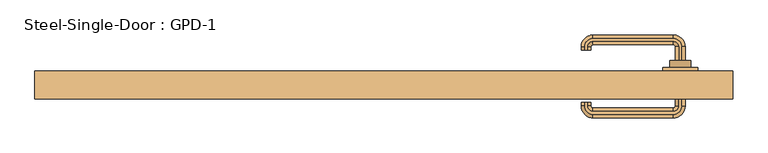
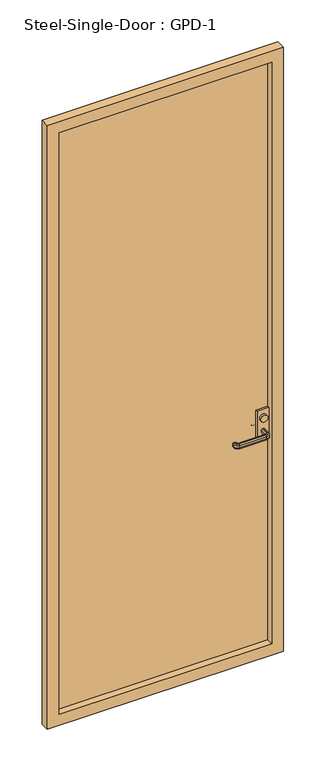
"""IFC4 building model written with IfcOpenShell, lengths in millimetres: door geometry, Steel-Single-Door : GPD-1."""

from ifc_helpers import new_model, si_unit, point, frame, frame_2d, origin, place, context, project, spatial, polyline, circle_curve, ellipse_curve, trimmed, segment, composite_curve, outline, extrude, source, transform, mapped, element, save
from ifc_brep_helpers import plane_surface, cylinder_surface, revolved_surface, advanced_brep


def steel_single_door_gpd_1_0d1a616a(model_context):
    return source(origin(), model_context, "Body", "SolidModel", [
        extrude(outline(composite_curve([segment(trimmed(circle_curve(frame_2d((1060.1793562, 425.0)), 15.0), [point((1060.1793562, 410.0))], [point((1060.1793562, 440.0))], False, "CARTESIAN"), True, "CONTINUOUS"), segment(trimmed(circle_curve(frame_2d((1060.1793562, 425.0)), 15.0), [point((1060.1793562, 440.0))], [point((1060.1793562, 410.0))], False, "CARTESIAN"), True, "CONTINUOUS")], self_intersect=False)), frame((0.0, 55.0, 0.0), z_axis=(0.0, 1.0, 0.0), x_axis=(0.0, 0.0, 1.0)), (0.0, 0.0, 1.0), 10.0),
        extrude(outline(composite_curve([segment(trimmed(circle_curve(frame_2d((1060.1793562, 425.0)), 15.0), [point((1060.1793562, 440.0))], [point((1060.1793562, 410.0))], False, "CARTESIAN"), True, "CONTINUOUS"), segment(trimmed(circle_curve(frame_2d((1060.1793562, 425.0)), 15.0), [point((1060.1793562, 410.0))], [point((1060.1793562, 440.0))], False, "CARTESIAN"), True, "CONTINUOUS")], self_intersect=False)), frame((0.0, 20.0, 0.0), z_axis=(0.0, 1.0, 0.0), x_axis=(0.0, 0.0, 1.0)), (0.0, 0.0, 1.0), 10.0),
        advanced_brep(
        [(427.0, 55.0, 1010.0), (423.0, 55.0, 1010.0), (418.0, 55.0, 1005.0), (418.0, 55.0, 995.0477623), (423.0, 55.0, 990.0477623), (427.0, 55.0, 990.0477623), (432.0, 55.0, 995.0477623), (432.0, 55.0, 1005.0), (432.0, 85.0, 1005.0), (427.0, 85.0, 1010.0), (432.0, 85.0, 995.0477623), (427.0, 85.0, 990.0477623), (423.0, 85.0, 990.0477623), (415.0, 93.0, 990.0477623), (300.0, 93.0, 990.0477623), (292.0, 85.0, 990.0477623), (292.0, 80.0, 990.0477623), (288.0, 80.0, 990.0477623), (288.0, 85.0, 990.0477623), (300.0, 97.0, 990.0477623), (415.0, 97.0, 990.0477623), (418.0, 85.0, 995.0477623), (418.0, 85.0, 1005.0), (423.0, 85.0, 1010.0), (415.0, 97.0, 1010.0), (300.0, 97.0, 1010.0), (288.0, 85.0, 1010.0), (288.0, 80.0, 1010.0), (292.0, 80.0, 1010.0), (292.0, 85.0, 1010.0), (300.0, 93.0, 1010.0), (415.0, 93.0, 1010.0), (415.0, 102.0, 1005.0), (415.0, 102.0, 995.0477623), (415.0, 88.0, 995.0477623), (415.0, 88.0, 1005.0), (300.0, 102.0, 1005.0), (300.0, 102.0, 995.0477623), (300.0, 88.0, 995.0477623), (300.0, 88.0, 1005.0), (283.0, 85.0, 1005.0), (283.0, 85.0, 995.0477623), (297.0, 85.0, 995.0477623), (297.0, 85.0, 1005.0), (283.0, 80.0, 1005.0), (283.0, 80.0, 995.0477623), (297.0, 80.0, 995.0477623), (297.0, 80.0, 1005.0)],
        [
            (0, 1),
            (1, 2, circle_curve(frame((423.0, 55.0, 1005.0), z_axis=(0.0, -1.0, 0.0), x_axis=(1.0, 0.0, 0.0)), 5.0)),
            (2, 3),
            (3, 4, circle_curve(frame((423.0, 55.0, 995.0477623), z_axis=(0.0, -1.0, 0.0), x_axis=(1.0, 0.0, 0.0)), 5.0)),
            (4, 5),
            (5, 6, circle_curve(frame((427.0, 55.0, 995.0477623), z_axis=(0.0, -1.0, 0.0), x_axis=(1.0, 0.0, 0.0)), 5.0)),
            (6, 7),
            (7, 0, circle_curve(frame((427.0, 55.0, 1005.0), z_axis=(0.0, -1.0, 0.0), x_axis=(1.0, 0.0, 0.0)), 5.0)),
            (7, 8),
            (8, 9, circle_curve(frame((427.0, 85.0, 1005.0), z_axis=(0.0, -1.0, 0.0), x_axis=(1.0, 0.0, 0.0)), 5.0)),
            (9, 0),
            (6, 10),
            (10, 8),
            (5, 11),
            (11, 10, circle_curve(frame((427.0, 85.0, 995.0477623), z_axis=(0.0, -1.0, 0.0), x_axis=(1.0, 0.0, 0.0)), 5.0)),
            (4, 12),
            (12, 13, circle_curve(frame((415.0, 85.0, 990.0477623), z_axis=(0.0, 0.0, 1.0), x_axis=(1.0, 0.0, 0.0)), 8.0)),
            (13, 14),
            (14, 15, circle_curve(frame((300.0, 85.0, 990.0477623), z_axis=(0.0, 0.0, 1.0), x_axis=(0.0, 1.0, 0.0)), 8.0)),
            (15, 16),
            (16, 17),
            (17, 18),
            (18, 19, circle_curve(frame((300.0, 85.0, 990.0477623), z_axis=(0.0, 0.0, -1.0), x_axis=(0.0, 1.0, 0.0)), 12.0)),
            (19, 20),
            (20, 11, circle_curve(frame((415.0, 85.0, 990.0477623), z_axis=(0.0, 0.0, -1.0), x_axis=(1.0, 0.0, 0.0)), 12.0)),
            (3, 21),
            (21, 12, circle_curve(frame((423.0, 85.0, 995.0477623), z_axis=(0.0, -1.0, 0.0), x_axis=(1.0, 0.0, 0.0)), 5.0)),
            (2, 22),
            (22, 21),
            (1, 23),
            (23, 22, circle_curve(frame((423.0, 85.0, 1005.0), z_axis=(0.0, -1.0, 0.0), x_axis=(1.0, 0.0, 0.0)), 5.0)),
            (9, 24, circle_curve(frame((415.0, 85.0, 1010.0), z_axis=(0.0, 0.0, 1.0), x_axis=(1.0, 0.0, 0.0)), 12.0)),
            (24, 25),
            (25, 26, circle_curve(frame((300.0, 85.0, 1010.0), z_axis=(0.0, 0.0, 1.0), x_axis=(0.0, 1.0, 0.0)), 12.0)),
            (26, 27),
            (27, 28),
            (28, 29),
            (29, 30, circle_curve(frame((300.0, 85.0, 1010.0), z_axis=(0.0, 0.0, -1.0), x_axis=(0.0, 1.0, 0.0)), 8.0)),
            (30, 31),
            (31, 23, circle_curve(frame((415.0, 85.0, 1010.0), z_axis=(0.0, 0.0, -1.0), x_axis=(1.0, 0.0, 0.0)), 8.0)),
            (32, 24, circle_curve(frame((415.0, 97.0, 1005.0), z_axis=(1.0, 0.0, 0.0), x_axis=(0.0, 1.0, 0.0)), 5.0)),
            (8, 32, circle_curve(frame((415.0, 85.0, 1005.0), z_axis=(0.0, 0.0, 1.0), x_axis=(1.0, 0.0, 0.0)), 17.0)),
            (33, 32),
            (10, 33, circle_curve(frame((415.0, 85.0, 995.0477623), z_axis=(0.0, 0.0, 1.0), x_axis=(1.0, 0.0, 0.0)), 17.0)),
            (20, 33, circle_curve(frame((415.0, 97.0, 995.0477623), z_axis=(1.0, 0.0, 0.0), x_axis=(0.0, 1.0, 0.0)), 5.0)),
            (34, 13, circle_curve(frame((415.0, 93.0, 995.0477623), z_axis=(1.0, 0.0, 0.0), x_axis=(0.0, 1.0, 0.0)), 5.0)),
            (21, 34, circle_curve(frame((415.0, 85.0, 995.0477623), z_axis=(0.0, 0.0, 1.0), x_axis=(1.0, 0.0, 0.0)), 3.0)),
            (35, 34),
            (22, 35, circle_curve(frame((415.0, 85.0, 1005.0), z_axis=(0.0, 0.0, 1.0), x_axis=(1.0, 0.0, 0.0)), 3.0)),
            (31, 35, circle_curve(frame((415.0, 93.0, 1005.0), z_axis=(1.0, 0.0, 0.0), x_axis=(0.0, 1.0, 0.0)), 5.0)),
            (32, 36),
            (36, 25, circle_curve(frame((300.0, 97.0, 1005.0), z_axis=(1.0, 0.0, 0.0), x_axis=(0.0, 1.0, 0.0)), 5.0)),
            (33, 37),
            (37, 36),
            (19, 37, circle_curve(frame((300.0, 97.0, 995.0477623), z_axis=(1.0, 0.0, 0.0), x_axis=(0.0, 1.0, 0.0)), 5.0)),
            (34, 38),
            (38, 14, circle_curve(frame((300.0, 93.0, 995.0477623), z_axis=(1.0, 0.0, 0.0), x_axis=(0.0, 1.0, 0.0)), 5.0)),
            (35, 39),
            (39, 38),
            (30, 39, circle_curve(frame((300.0, 93.0, 1005.0), z_axis=(1.0, 0.0, 0.0), x_axis=(0.0, 1.0, 0.0)), 5.0)),
            (40, 26, circle_curve(frame((288.0, 85.0, 1005.0), z_axis=(0.0, 1.0, 0.0), x_axis=(-1.0, 0.0, 0.0)), 5.0)),
            (36, 40, circle_curve(frame((300.0, 85.0, 1005.0), z_axis=(0.0, 0.0, 1.0), x_axis=(0.0, 1.0, 0.0)), 17.0)),
            (41, 40),
            (37, 41, circle_curve(frame((300.0, 85.0, 995.0477623), z_axis=(0.0, 0.0, 1.0), x_axis=(0.0, 1.0, 0.0)), 17.0)),
            (18, 41, circle_curve(frame((288.0, 85.0, 995.0477623), z_axis=(0.0, 1.0, 0.0), x_axis=(-1.0, 0.0, 0.0)), 5.0)),
            (42, 15, circle_curve(frame((292.0, 85.0, 995.0477623), z_axis=(0.0, 1.0, 0.0), x_axis=(-1.0, 0.0, 0.0)), 5.0)),
            (38, 42, circle_curve(frame((300.0, 85.0, 995.0477623), z_axis=(0.0, 0.0, 1.0), x_axis=(0.0, 1.0, 0.0)), 3.0)),
            (43, 42),
            (39, 43, circle_curve(frame((300.0, 85.0, 1005.0), z_axis=(0.0, 0.0, 1.0), x_axis=(0.0, 1.0, 0.0)), 3.0)),
            (29, 43, circle_curve(frame((292.0, 85.0, 1005.0), z_axis=(0.0, 1.0, 0.0), x_axis=(-1.0, 0.0, 0.0)), 5.0)),
            (27, 44, circle_curve(frame((288.0, 80.0, 1005.0), z_axis=(0.0, -1.0, 0.0), x_axis=(-1.0, 0.0, 0.0)), 5.0)),
            (44, 45),
            (45, 17, circle_curve(frame((288.0, 80.0, 995.0477623), z_axis=(0.0, -1.0, 0.0), x_axis=(-1.0, 0.0, 0.0)), 5.0)),
            (16, 46, circle_curve(frame((292.0, 80.0, 995.0477623), z_axis=(0.0, -1.0, 0.0), x_axis=(-1.0, 0.0, 0.0)), 5.0)),
            (46, 47),
            (47, 28, circle_curve(frame((292.0, 80.0, 1005.0), z_axis=(0.0, -1.0, 0.0), x_axis=(-1.0, 0.0, 0.0)), 5.0)),
            (40, 44),
            (41, 45),
            (42, 46),
            (43, 47),
        ],
        [
            plane_surface(frame((435.198039, 55.0, 1000.0), z_axis=(0.0, -1.0, 0.0), x_axis=(0.0, 0.0, 1.0))),
            cylinder_surface(frame((427.0, 55.0, 1005.0), z_axis=(0.0, -1.0, 0.0), x_axis=(1.0, 0.0, 0.0)), 5.0),
            plane_surface(frame((432.0, 55.0, 1005.0), z_axis=(1.0, 0.0, 0.0), x_axis=(0.0, 1.0, 0.0))),
            cylinder_surface(frame((427.0, 55.0, 995.0477623), z_axis=(0.0, -1.0, 0.0), x_axis=(1.0, 0.0, 0.0)), 5.0),
            plane_surface(frame((427.0, 55.0, 990.0477623), z_axis=(0.0, 0.0, -1.0), x_axis=(0.0, 1.0, 0.0))),
            cylinder_surface(frame((423.0, 55.0, 995.0477623), z_axis=(0.0, -1.0, 0.0), x_axis=(1.0, 0.0, 0.0)), 5.0),
            plane_surface(frame((418.0, 55.0, 995.0477623), z_axis=(-1.0, 0.0, 0.0), x_axis=(0.0, 1.0, 0.0))),
            cylinder_surface(frame((423.0, 55.0, 1005.0), z_axis=(0.0, -1.0, 0.0), x_axis=(1.0, 0.0, 0.0)), 5.0),
            plane_surface(frame((423.0, 55.0, 1010.0), z_axis=(0.0, 0.0, 1.0), x_axis=(0.0, 1.0, 0.0))),
            revolved_surface(trimmed(ellipse_curve(frame((427.0, 85.0, 1005.0), z_axis=(0.0, 1.0, 0.0), x_axis=(1.0, 0.0, 0.0)), 5.0, 5.0), [point((427.0, 85.0, 1010.0))], [point((432.0, 85.0, 1005.0))], True, "CARTESIAN"), (415.0, 85.0, 1000.0), (0.0, 0.0, -1.0)),
            cylinder_surface(frame((415.0, 85.0, 1000.0), z_axis=(0.0, 0.0, -1.0), x_axis=(1.0, 0.0, 0.0)), 17.0),
            revolved_surface(trimmed(ellipse_curve(frame((427.0, 85.0, 995.0477623), z_axis=(0.0, 1.0, 0.0), x_axis=(1.0, 0.0, 0.0)), 5.0, 5.0), [point((432.0, 85.0, 995.0477623))], [point((427.0, 85.0, 990.0477623))], True, "CARTESIAN"), (415.0, 85.0, 1000.0), (0.0, 0.0, -1.0)),
            revolved_surface(trimmed(ellipse_curve(frame((423.0, 85.0, 995.0477623), z_axis=(0.0, 1.0, 0.0), x_axis=(1.0, 0.0, 0.0)), 5.0, 5.0), [point((423.0, 85.0, 990.0477623))], [point((418.0, 85.0, 995.0477623))], True, "CARTESIAN"), (415.0, 85.0, 1000.0), (0.0, 0.0, -1.0)),
            revolved_surface(polyline([(418.0, 85.0, 995.0477623), (418.0, 85.0, 1005.0)]), (415.0, 85.0, 1000.0), (0.0, 0.0, -1.0)),
            revolved_surface(trimmed(ellipse_curve(frame((423.0, 85.0, 1005.0), z_axis=(0.0, 1.0, 0.0), x_axis=(1.0, 0.0, 0.0)), 5.0, 5.0), [point((418.0, 85.0, 1005.0))], [point((423.0, 85.0, 1010.0))], True, "CARTESIAN"), (415.0, 85.0, 1000.0), (0.0, 0.0, -1.0)),
            cylinder_surface(frame((415.0, 97.0, 1005.0), z_axis=(1.0, 0.0, 0.0), x_axis=(0.0, 1.0, 0.0)), 5.0),
            plane_surface(frame((415.0, 102.0, 1005.0), z_axis=(0.0, 1.0, 0.0), x_axis=(-1.0, 0.0, 0.0))),
            cylinder_surface(frame((415.0, 97.0, 995.0477623), z_axis=(1.0, 0.0, 0.0), x_axis=(0.0, 1.0, 0.0)), 5.0),
            cylinder_surface(frame((415.0, 93.0, 995.0477623), z_axis=(1.0, 0.0, 0.0), x_axis=(0.0, 1.0, 0.0)), 5.0),
            plane_surface(frame((415.0, 88.0, 995.0477623), z_axis=(0.0, -1.0, 0.0), x_axis=(-1.0, 0.0, 0.0))),
            cylinder_surface(frame((415.0, 93.0, 1005.0), z_axis=(1.0, 0.0, 0.0), x_axis=(0.0, 1.0, 0.0)), 5.0),
            revolved_surface(trimmed(ellipse_curve(frame((300.0, 97.0, 1005.0), z_axis=(-1.0, 0.0, 0.0), x_axis=(0.0, 1.0, 0.0)), 5.0, 5.0), [point((300.0, 97.0, 1010.0))], [point((300.0, 102.0, 1005.0))], True, "CARTESIAN"), (300.0, 85.0, 1000.0), (0.0, 0.0, -1.0)),
            cylinder_surface(frame((300.0, 85.0, 1000.0), z_axis=(0.0, 0.0, -1.0), x_axis=(0.0, 1.0, 0.0)), 17.0),
            revolved_surface(trimmed(ellipse_curve(frame((300.0, 97.0, 995.0477623), z_axis=(-1.0, 0.0, 0.0), x_axis=(0.0, 1.0, 0.0)), 5.0, 5.0), [point((300.0, 102.0, 995.0477623))], [point((300.0, 97.0, 990.0477623))], True, "CARTESIAN"), (300.0, 85.0, 1000.0), (0.0, 0.0, -1.0)),
            revolved_surface(trimmed(ellipse_curve(frame((300.0, 93.0, 995.0477623), z_axis=(-1.0, 0.0, 0.0), x_axis=(0.0, 1.0, 0.0)), 5.0, 5.0), [point((300.0, 93.0, 990.0477623))], [point((300.0, 88.0, 995.0477623))], True, "CARTESIAN"), (300.0, 85.0, 1000.0), (0.0, 0.0, -1.0)),
            revolved_surface(polyline([(300.0, 88.0, 995.0477623), (300.0, 88.0, 1005.0)]), (300.0, 85.0, 1000.0), (0.0, 0.0, -1.0)),
            revolved_surface(trimmed(ellipse_curve(frame((300.0, 93.0, 1005.0), z_axis=(-1.0, 0.0, 0.0), x_axis=(0.0, 1.0, 0.0)), 5.0, 5.0), [point((300.0, 88.0, 1005.0))], [point((300.0, 93.0, 1010.0))], True, "CARTESIAN"), (300.0, 85.0, 1000.0), (0.0, 0.0, -1.0)),
            plane_surface(frame((300.198039, 80.0, 1000.0), z_axis=(0.0, -1.0, 0.0), x_axis=(0.0, 0.0, -1.0))),
            cylinder_surface(frame((288.0, 85.0, 1005.0), z_axis=(0.0, 1.0, 0.0), x_axis=(-1.0, 0.0, 0.0)), 5.0),
            plane_surface(frame((283.0, 85.0, 1005.0), z_axis=(-1.0, 0.0, 0.0), x_axis=(0.0, -1.0, 0.0))),
            cylinder_surface(frame((288.0, 85.0, 995.0477623), z_axis=(0.0, 1.0, 0.0), x_axis=(-1.0, 0.0, 0.0)), 5.0),
            cylinder_surface(frame((292.0, 85.0, 995.0477623), z_axis=(0.0, 1.0, 0.0), x_axis=(-1.0, 0.0, 0.0)), 5.0),
            plane_surface(frame((297.0, 85.0, 995.0477623), z_axis=(1.0, 0.0, 0.0), x_axis=(0.0, -1.0, 0.0))),
            cylinder_surface(frame((292.0, 85.0, 1005.0), z_axis=(0.0, 1.0, 0.0), x_axis=(-1.0, 0.0, 0.0)), 5.0),
        ],
        [
            (0, [[1, 2, 3, 4, 5, 6, 7, 8]]),
            (1, [[9, 10, 11, -8]]),
            (2, [[12, 13, -9, -7]]),
            (3, [[14, 15, -12, -6]]),
            (4, [[16, 17, 18, 19, 20, 21, 22, 23, 24, 25, -14, -5]]),
            (5, [[26, 27, -16, -4]]),
            (6, [[28, 29, -26, -3]]),
            (7, [[30, 31, -28, -2]]),
            (8, [[-11, 32, 33, 34, 35, 36, 37, 38, 39, 40, -30, -1]]),
            (9, [[41, -32, -10, 42]]),
            (10, [[43, -42, -13, 44]]),
            (11, [[45, -44, -15, -25]]),
            (12, [[46, -17, -27, 47]]),
            (13, [[48, -47, -29, 49]]),
            (14, [[50, -49, -31, -40]]),
            (15, [[51, 52, -33, -41]]),
            (16, [[53, 54, -51, -43]]),
            (17, [[-24, 55, -53, -45]]),
            (18, [[56, 57, -18, -46]]),
            (19, [[58, 59, -56, -48]]),
            (20, [[-39, 60, -58, -50]]),
            (21, [[61, -34, -52, 62]]),
            (22, [[63, -62, -54, 64]]),
            (23, [[65, -64, -55, -23]]),
            (24, [[66, -19, -57, 67]]),
            (25, [[68, -67, -59, 69]]),
            (26, [[70, -69, -60, -38]]),
            (27, [[71, 72, 73, -21, 74, 75, 76, -36]]),
            (28, [[77, -71, -35, -61]]),
            (29, [[78, -72, -77, -63]]),
            (30, [[-22, -73, -78, -65]]),
            (31, [[79, -74, -20, -66]]),
            (32, [[80, -75, -79, -68]]),
            (33, [[-37, -76, -80, -70]]),
        ],
    ),
        advanced_brep(
        [(423.0, 30.0, 990.0), (418.0, 30.0, 995.0), (418.0, 30.0, 1005.0), (423.0, 30.0, 1010.0), (427.0, 30.0, 1010.0), (432.0, 30.0, 1005.0), (432.0, 30.0, 995.0), (427.0, 30.0, 990.0), (427.0, 0.0, 990.0), (415.0, -12.0, 990.0), (300.0, -12.0, 990.0), (288.0, 0.0, 990.0), (288.0, 5.0, 990.0), (292.0, 5.0, 990.0), (292.0, 0.0, 990.0), (300.0, -8.0, 990.0), (415.0, -8.0, 990.0), (423.0, 0.0, 990.0), (432.0, 0.0, 995.0), (432.0, 0.0, 1005.0), (427.0, 0.0, 1010.0), (423.0, 0.0, 1010.0), (415.0, -8.0, 1010.0), (300.0, -8.0, 1010.0), (292.0, 0.0, 1010.0), (292.0, 5.0, 1010.0), (288.0, 5.0, 1010.0), (288.0, 0.0, 1010.0), (300.0, -12.0, 1010.0), (415.0, -12.0, 1010.0), (418.0, 0.0, 1005.0), (418.0, 0.0, 995.0), (415.0, -17.0, 995.0), (415.0, -17.0, 1005.0), (415.0, -3.0, 1005.0), (415.0, -3.0, 995.0), (300.0, -17.0, 995.0), (300.0, -17.0, 1005.0), (300.0, -3.0, 1005.0), (300.0, -3.0, 995.0), (283.0, 0.0, 995.0), (283.0, 0.0, 1005.0), (297.0, 0.0, 1005.0), (297.0, 0.0, 995.0), (283.0, 5.0, 995.0), (283.0, 5.0, 1005.0), (297.0, 5.0, 1005.0), (297.0, 5.0, 995.0)],
        [
            (0, 1, circle_curve(frame((423.0, 30.0, 995.0), z_axis=(0.0, 1.0, 0.0), x_axis=(-1.0, 0.0, 0.0)), 5.0)),
            (1, 2),
            (2, 3, circle_curve(frame((423.0, 30.0, 1005.0), z_axis=(0.0, 1.0, 0.0), x_axis=(-1.0, 0.0, 0.0)), 5.0)),
            (3, 4),
            (4, 5, circle_curve(frame((427.0, 30.0, 1005.0), z_axis=(0.0, 1.0, 0.0), x_axis=(-1.0, 0.0, 0.0)), 5.0)),
            (5, 6),
            (6, 7, circle_curve(frame((427.0, 30.0, 995.0), z_axis=(0.0, 1.0, 0.0), x_axis=(-1.0, 0.0, 0.0)), 5.0)),
            (7, 0),
            (7, 8),
            (8, 9, circle_curve(frame((415.0, 0.0, 990.0), z_axis=(0.0, 0.0, -1.0), x_axis=(1.0, 0.0, 0.0)), 12.0)),
            (9, 10),
            (10, 11, circle_curve(frame((300.0, 0.0, 990.0), z_axis=(0.0, 0.0, -1.0), x_axis=(0.0, -1.0, 0.0)), 12.0)),
            (11, 12),
            (12, 13),
            (13, 14),
            (14, 15, circle_curve(frame((300.0, 0.0, 990.0), z_axis=(0.0, 0.0, 1.0), x_axis=(0.0, -1.0, 0.0)), 8.0)),
            (15, 16),
            (16, 17, circle_curve(frame((415.0, 0.0, 990.0), z_axis=(0.0, 0.0, 1.0), x_axis=(1.0, 0.0, 0.0)), 8.0)),
            (17, 0),
            (6, 18),
            (18, 8, circle_curve(frame((427.0, 0.0, 995.0), z_axis=(0.0, 1.0, 0.0), x_axis=(-1.0, 0.0, 0.0)), 5.0)),
            (5, 19),
            (19, 18),
            (4, 20),
            (20, 19, circle_curve(frame((427.0, 0.0, 1005.0), z_axis=(0.0, 1.0, 0.0), x_axis=(-1.0, 0.0, 0.0)), 5.0)),
            (3, 21),
            (21, 22, circle_curve(frame((415.0, 0.0, 1010.0), z_axis=(0.0, 0.0, -1.0), x_axis=(1.0, 0.0, 0.0)), 8.0)),
            (22, 23),
            (23, 24, circle_curve(frame((300.0, 0.0, 1010.0), z_axis=(0.0, 0.0, -1.0), x_axis=(0.0, -1.0, 0.0)), 8.0)),
            (24, 25),
            (25, 26),
            (26, 27),
            (27, 28, circle_curve(frame((300.0, 0.0, 1010.0), z_axis=(0.0, 0.0, 1.0), x_axis=(0.0, -1.0, 0.0)), 12.0)),
            (28, 29),
            (29, 20, circle_curve(frame((415.0, 0.0, 1010.0), z_axis=(0.0, 0.0, 1.0), x_axis=(1.0, 0.0, 0.0)), 12.0)),
            (2, 30),
            (30, 21, circle_curve(frame((423.0, 0.0, 1005.0), z_axis=(0.0, 1.0, 0.0), x_axis=(-1.0, 0.0, 0.0)), 5.0)),
            (1, 31),
            (31, 30),
            (17, 31, circle_curve(frame((423.0, 0.0, 995.0), z_axis=(0.0, 1.0, 0.0), x_axis=(-1.0, 0.0, 0.0)), 5.0)),
            (32, 9, circle_curve(frame((415.0, -12.0, 995.0), z_axis=(1.0, 0.0, 0.0), x_axis=(0.0, 1.0, 0.0)), 5.0)),
            (18, 32, circle_curve(frame((415.0, 0.0, 995.0), z_axis=(0.0, 0.0, -1.0), x_axis=(1.0, 0.0, 0.0)), 17.0)),
            (33, 32),
            (19, 33, circle_curve(frame((415.0, 0.0, 1005.0), z_axis=(0.0, 0.0, -1.0), x_axis=(1.0, 0.0, 0.0)), 17.0)),
            (29, 33, circle_curve(frame((415.0, -12.0, 1005.0), z_axis=(1.0, 0.0, 0.0), x_axis=(0.0, 1.0, 0.0)), 5.0)),
            (34, 22, circle_curve(frame((415.0, -8.0, 1005.0), z_axis=(1.0, 0.0, 0.0), x_axis=(0.0, 1.0, 0.0)), 5.0)),
            (30, 34, circle_curve(frame((415.0, 0.0, 1005.0), z_axis=(0.0, 0.0, -1.0), x_axis=(1.0, 0.0, 0.0)), 3.0)),
            (35, 34),
            (31, 35, circle_curve(frame((415.0, 0.0, 995.0), z_axis=(0.0, 0.0, -1.0), x_axis=(1.0, 0.0, 0.0)), 3.0)),
            (16, 35, circle_curve(frame((415.0, -8.0, 995.0), z_axis=(1.0, 0.0, 0.0), x_axis=(0.0, 1.0, 0.0)), 5.0)),
            (32, 36),
            (36, 10, circle_curve(frame((300.0, -12.0, 995.0), z_axis=(1.0, 0.0, 0.0), x_axis=(0.0, 1.0, 0.0)), 5.0)),
            (33, 37),
            (37, 36),
            (28, 37, circle_curve(frame((300.0, -12.0, 1005.0), z_axis=(1.0, 0.0, 0.0), x_axis=(0.0, 1.0, 0.0)), 5.0)),
            (34, 38),
            (38, 23, circle_curve(frame((300.0, -8.0, 1005.0), z_axis=(1.0, 0.0, 0.0), x_axis=(0.0, 1.0, 0.0)), 5.0)),
            (35, 39),
            (39, 38),
            (15, 39, circle_curve(frame((300.0, -8.0, 995.0), z_axis=(1.0, 0.0, 0.0), x_axis=(0.0, 1.0, 0.0)), 5.0)),
            (40, 11, circle_curve(frame((288.0, 0.0, 995.0), z_axis=(0.0, -1.0, 0.0), x_axis=(1.0, 0.0, 0.0)), 5.0)),
            (36, 40, circle_curve(frame((300.0, 0.0, 995.0), z_axis=(0.0, 0.0, -1.0), x_axis=(0.0, -1.0, 0.0)), 17.0)),
            (41, 40),
            (37, 41, circle_curve(frame((300.0, 0.0, 1005.0), z_axis=(0.0, 0.0, -1.0), x_axis=(0.0, -1.0, 0.0)), 17.0)),
            (27, 41, circle_curve(frame((288.0, 0.0, 1005.0), z_axis=(0.0, -1.0, 0.0), x_axis=(1.0, 0.0, 0.0)), 5.0)),
            (42, 24, circle_curve(frame((292.0, 0.0, 1005.0), z_axis=(0.0, -1.0, 0.0), x_axis=(1.0, 0.0, 0.0)), 5.0)),
            (38, 42, circle_curve(frame((300.0, 0.0, 1005.0), z_axis=(0.0, 0.0, -1.0), x_axis=(0.0, -1.0, 0.0)), 3.0)),
            (43, 42),
            (39, 43, circle_curve(frame((300.0, 0.0, 995.0), z_axis=(0.0, 0.0, -1.0), x_axis=(0.0, -1.0, 0.0)), 3.0)),
            (14, 43, circle_curve(frame((292.0, 0.0, 995.0), z_axis=(0.0, -1.0, 0.0), x_axis=(1.0, 0.0, 0.0)), 5.0)),
            (12, 44, circle_curve(frame((288.0, 5.0, 995.0), z_axis=(0.0, 1.0, 0.0), x_axis=(1.0, 0.0, 0.0)), 5.0)),
            (44, 45),
            (45, 26, circle_curve(frame((288.0, 5.0, 1005.0), z_axis=(0.0, 1.0, 0.0), x_axis=(1.0, 0.0, 0.0)), 5.0)),
            (25, 46, circle_curve(frame((292.0, 5.0, 1005.0), z_axis=(0.0, 1.0, 0.0), x_axis=(1.0, 0.0, 0.0)), 5.0)),
            (46, 47),
            (47, 13, circle_curve(frame((292.0, 5.0, 995.0), z_axis=(0.0, 1.0, 0.0), x_axis=(1.0, 0.0, 0.0)), 5.0)),
            (40, 44),
            (41, 45),
            (42, 46),
            (43, 47),
        ],
        [
            plane_surface(frame((435.198039, 30.0, 1000.0), z_axis=(0.0, 1.0, 0.0), x_axis=(0.0, 0.0, -1.0))),
            plane_surface(frame((423.0, 30.0, 990.0), z_axis=(0.0, 0.0, -1.0), x_axis=(0.0, -1.0, 0.0))),
            cylinder_surface(frame((427.0, 30.0, 995.0), z_axis=(0.0, 1.0, 0.0), x_axis=(-1.0, 0.0, 0.0)), 5.0),
            plane_surface(frame((432.0, 30.0, 995.0), z_axis=(1.0, 0.0, 0.0), x_axis=(0.0, -1.0, 0.0))),
            cylinder_surface(frame((427.0, 30.0, 1005.0), z_axis=(0.0, 1.0, 0.0), x_axis=(-1.0, 0.0, 0.0)), 5.0),
            plane_surface(frame((427.0, 30.0, 1010.0), z_axis=(0.0, 0.0, 1.0), x_axis=(0.0, -1.0, 0.0))),
            cylinder_surface(frame((423.0, 30.0, 1005.0), z_axis=(0.0, 1.0, 0.0), x_axis=(-1.0, 0.0, 0.0)), 5.0),
            plane_surface(frame((418.0, 30.0, 1005.0), z_axis=(-1.0, 0.0, 0.0), x_axis=(0.0, -1.0, 0.0))),
            cylinder_surface(frame((423.0, 30.0, 995.0), z_axis=(0.0, 1.0, 0.0), x_axis=(-1.0, 0.0, 0.0)), 5.0),
            revolved_surface(trimmed(ellipse_curve(frame((427.0, 0.0, 995.0), z_axis=(0.0, -1.0, 0.0), x_axis=(-1.0, 0.0, 0.0)), 5.0, 5.0), [point((427.0, 0.0, 990.0))], [point((432.0, 0.0, 995.0))], True, "CARTESIAN"), (415.0, 0.0, 1000.0), (0.0, 0.0, 1.0)),
            cylinder_surface(frame((415.0, 0.0, 1000.0), z_axis=(0.0, 0.0, 1.0), x_axis=(1.0, 0.0, 0.0)), 17.0),
            revolved_surface(trimmed(ellipse_curve(frame((427.0, 0.0, 1005.0), z_axis=(0.0, -1.0, 0.0), x_axis=(-1.0, 0.0, 0.0)), 5.0, 5.0), [point((432.0, 0.0, 1005.0))], [point((427.0, 0.0, 1010.0))], True, "CARTESIAN"), (415.0, 0.0, 1000.0), (0.0, 0.0, 1.0)),
            revolved_surface(trimmed(ellipse_curve(frame((423.0, 0.0, 1005.0), z_axis=(0.0, -1.0, 0.0), x_axis=(-1.0, 0.0, 0.0)), 5.0, 5.0), [point((423.0, 0.0, 1010.0))], [point((418.0, 0.0, 1005.0))], True, "CARTESIAN"), (415.0, 0.0, 1000.0), (0.0, 0.0, 1.0)),
            revolved_surface(polyline([(418.0, 0.0, 1005.0), (418.0, 0.0, 995.0)]), (415.0, 0.0, 1000.0), (0.0, 0.0, 1.0)),
            revolved_surface(trimmed(ellipse_curve(frame((423.0, 0.0, 995.0), z_axis=(0.0, -1.0, 0.0), x_axis=(-1.0, 0.0, 0.0)), 5.0, 5.0), [point((418.0, 0.0, 995.0))], [point((423.0, 0.0, 990.0))], True, "CARTESIAN"), (415.0, 0.0, 1000.0), (0.0, 0.0, 1.0)),
            cylinder_surface(frame((415.0, -12.0, 995.0), z_axis=(1.0, 0.0, 0.0), x_axis=(0.0, 1.0, 0.0)), 5.0),
            plane_surface(frame((415.0, -17.0, 995.0), z_axis=(0.0, -1.0, 0.0), x_axis=(-1.0, 0.0, 0.0))),
            cylinder_surface(frame((415.0, -12.0, 1005.0), z_axis=(1.0, 0.0, 0.0), x_axis=(0.0, 1.0, 0.0)), 5.0),
            cylinder_surface(frame((415.0, -8.0, 1005.0), z_axis=(1.0, 0.0, 0.0), x_axis=(0.0, 1.0, 0.0)), 5.0),
            plane_surface(frame((415.0, -3.0, 1005.0), z_axis=(0.0, 1.0, 0.0), x_axis=(-1.0, 0.0, 0.0))),
            cylinder_surface(frame((415.0, -8.0, 995.0), z_axis=(1.0, 0.0, 0.0), x_axis=(0.0, 1.0, 0.0)), 5.0),
            revolved_surface(trimmed(ellipse_curve(frame((300.0, -12.0, 995.0), z_axis=(-1.0, 0.0, 0.0), x_axis=(0.0, 1.0, 0.0)), 5.0, 5.0), [point((300.0, -12.0, 990.0))], [point((300.0, -17.0, 995.0))], True, "CARTESIAN"), (300.0, 0.0, 1000.0), (0.0, 0.0, 1.0)),
            cylinder_surface(frame((300.0, 0.0, 1000.0), z_axis=(0.0, 0.0, 1.0), x_axis=(0.0, -1.0, 0.0)), 17.0),
            revolved_surface(trimmed(ellipse_curve(frame((300.0, -12.0, 1005.0), z_axis=(-1.0, 0.0, 0.0), x_axis=(0.0, 1.0, 0.0)), 5.0, 5.0), [point((300.0, -17.0, 1005.0))], [point((300.0, -12.0, 1010.0))], True, "CARTESIAN"), (300.0, 0.0, 1000.0), (0.0, 0.0, 1.0)),
            revolved_surface(trimmed(ellipse_curve(frame((300.0, -8.0, 1005.0), z_axis=(-1.0, 0.0, 0.0), x_axis=(0.0, 1.0, 0.0)), 5.0, 5.0), [point((300.0, -8.0, 1010.0))], [point((300.0, -3.0, 1005.0))], True, "CARTESIAN"), (300.0, 0.0, 1000.0), (0.0, 0.0, 1.0)),
            revolved_surface(polyline([(300.0, -3.0, 1005.0), (300.0, -3.0, 995.0)]), (300.0, 0.0, 1000.0), (0.0, 0.0, 1.0)),
            revolved_surface(trimmed(ellipse_curve(frame((300.0, -8.0, 995.0), z_axis=(-1.0, 0.0, 0.0), x_axis=(0.0, 1.0, 0.0)), 5.0, 5.0), [point((300.0, -3.0, 995.0))], [point((300.0, -8.0, 990.0))], True, "CARTESIAN"), (300.0, 0.0, 1000.0), (0.0, 0.0, 1.0)),
            plane_surface(frame((300.198039, 5.0, 1000.0), z_axis=(0.0, 1.0, 0.0), x_axis=(0.0, 0.0, 1.0))),
            cylinder_surface(frame((288.0, 0.0, 995.0), z_axis=(0.0, -1.0, 0.0), x_axis=(1.0, 0.0, 0.0)), 5.0),
            plane_surface(frame((283.0, 0.0, 995.0), z_axis=(-1.0, 0.0, 0.0), x_axis=(0.0, 1.0, 0.0))),
            cylinder_surface(frame((288.0, 0.0, 1005.0), z_axis=(0.0, -1.0, 0.0), x_axis=(1.0, 0.0, 0.0)), 5.0),
            cylinder_surface(frame((292.0, 0.0, 1005.0), z_axis=(0.0, -1.0, 0.0), x_axis=(1.0, 0.0, 0.0)), 5.0),
            plane_surface(frame((297.0, 0.0, 1005.0), z_axis=(1.0, 0.0, 0.0), x_axis=(0.0, 1.0, 0.0))),
            cylinder_surface(frame((292.0, 0.0, 995.0), z_axis=(0.0, -1.0, 0.0), x_axis=(1.0, 0.0, 0.0)), 5.0),
        ],
        [
            (0, [[1, 2, 3, 4, 5, 6, 7, 8]]),
            (1, [[9, 10, 11, 12, 13, 14, 15, 16, 17, 18, 19, -8]]),
            (2, [[20, 21, -9, -7]]),
            (3, [[22, 23, -20, -6]]),
            (4, [[24, 25, -22, -5]]),
            (5, [[26, 27, 28, 29, 30, 31, 32, 33, 34, 35, -24, -4]]),
            (6, [[36, 37, -26, -3]]),
            (7, [[38, 39, -36, -2]]),
            (8, [[-19, 40, -38, -1]]),
            (9, [[41, -10, -21, 42]]),
            (10, [[43, -42, -23, 44]]),
            (11, [[45, -44, -25, -35]]),
            (12, [[46, -27, -37, 47]]),
            (13, [[48, -47, -39, 49]]),
            (14, [[50, -49, -40, -18]]),
            (15, [[51, 52, -11, -41]]),
            (16, [[53, 54, -51, -43]]),
            (17, [[-34, 55, -53, -45]]),
            (18, [[56, 57, -28, -46]]),
            (19, [[58, 59, -56, -48]]),
            (20, [[-17, 60, -58, -50]]),
            (21, [[61, -12, -52, 62]]),
            (22, [[63, -62, -54, 64]]),
            (23, [[65, -64, -55, -33]]),
            (24, [[66, -29, -57, 67]]),
            (25, [[68, -67, -59, 69]]),
            (26, [[70, -69, -60, -16]]),
            (27, [[-14, 71, 72, 73, -31, 74, 75, 76]]),
            (28, [[77, -71, -13, -61]]),
            (29, [[78, -72, -77, -63]]),
            (30, [[-32, -73, -78, -65]]),
            (31, [[79, -74, -30, -66]]),
            (32, [[80, -75, -79, -68]]),
            (33, [[-15, -76, -80, -70]]),
        ],
    ),
        extrude(outline(polyline([(400.0, 45.0), (400.0, 55.0), (450.0, 55.0), (450.0, 45.0), (400.0, 45.0)])), frame((0.0, 0.0, 975.0), z_axis=(0.0, 0.0, 1.0), x_axis=(1.0, 0.0, 0.0)), (0.0, 0.0, 1.0), 120.1793562),
        extrude(outline(polyline([(400.0, 30.0), (400.0, 40.0), (450.0, 40.0), (450.0, 30.0), (400.0, 30.0)])), frame((0.0, 0.0, 975.0), z_axis=(0.0, 0.0, 1.0), x_axis=(1.0, 0.0, 0.0)), (0.0, 0.0, 1.0), 120.1793562),
        extrude(outline(polyline([(-450.0, 45.0), (450.0, 45.0), (450.0, 40.0), (-450.0, 40.0), (-450.0, 45.0)])), frame((0.0, 0.0, 50.0), z_axis=(0.0, 0.0, 1.0), x_axis=(1.0, 0.0, 0.0)), (0.0, 0.0, 1.0), 2600.0),
        extrude(outline(polyline([(0.0, -500.0), (0.0, 500.0), (2700.0, 500.0), (2700.0, -500.0), (0.0, -500.0)]), holes=[polyline([(50.0, -450.0), (2650.0, -450.0), (2650.0, 450.0), (50.0, 450.0), (50.0, -450.0)])]), frame((0.0, 10.0, 0.0), z_axis=(0.0, 1.0, 0.0), x_axis=(0.0, 0.0, 1.0)), (0.0, 0.0, 1.0), 40.0),
    ])


if __name__ == "__main__":
    model = new_model("IFC4")
    model_context = context("Model", 3, world=origin())
    ifc_project = project(units=[si_unit("LENGTHUNIT", "METRE", prefix="MILLI")], contexts=[model_context])
    site = spatial("IfcSite", under=ifc_project)
    building = spatial("IfcBuilding", under=site)
    placement = place(None, origin())
    steel_single_door_gpd_1_shape = steel_single_door_gpd_1_0d1a616a(model_context)
    element("IfcDoor", 1, ObjectType="Steel-Single-Door : GPD-1", at=placement, inside=building, context=model_context, shape_type="MappedRepresentation", body=[
        mapped(steel_single_door_gpd_1_shape, transform((0.0, 0.0, 0.0), x_axis=(1.0, 0.0, 0.0), y_axis=(0.0, 1.0, 0.0), z_axis=(0.0, 0.0, 1.0))),
    ])
    save(model, "model.ifc")
